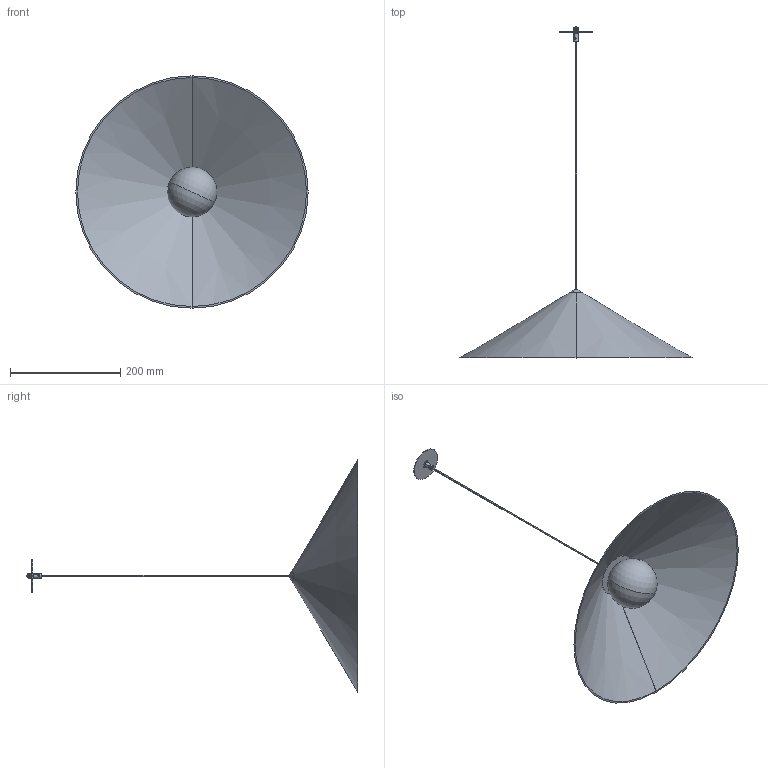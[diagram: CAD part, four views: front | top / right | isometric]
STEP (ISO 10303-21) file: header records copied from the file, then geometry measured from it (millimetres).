
FILE_DESCRIPTION (( 'STEP AP214' ), '1' );
FILE_NAME ('BELL_420_Emp_STEP.STEP', '2024-05-29T14:20:16', ( '' ), ( '' ), 'SwSTEP 2.0', 'SolidWorks 2024', '' );
FILE_SCHEMA (( 'AUTOMOTIVE_DESIGN' ));
Length unit declared in the file: millimetre
Products named in the file (1): BELL_420_Emp_STEP
Bounding box: 421 x 601.22 x 421 mm (x, y, z)
Volume: 323061.8 mm3; surface area: 390226.7 mm2
Topology: 9 solids, 9 shells, 485 faces, 1333 edges, 881 vertices
Faces by surface type: plane 198, cone 150, cylinder 74, bspline 47, torus 12, sphere 4
Entity records: 22357 total; most frequent: CARTESIAN_POINT 10135, ORIENTED_EDGE 2646, DIRECTION 2423, EDGE_CURVE 1323, VERTEX_POINT 875, AXIS2_PLACEMENT_3D 842, VECTOR 739, LINE 739
